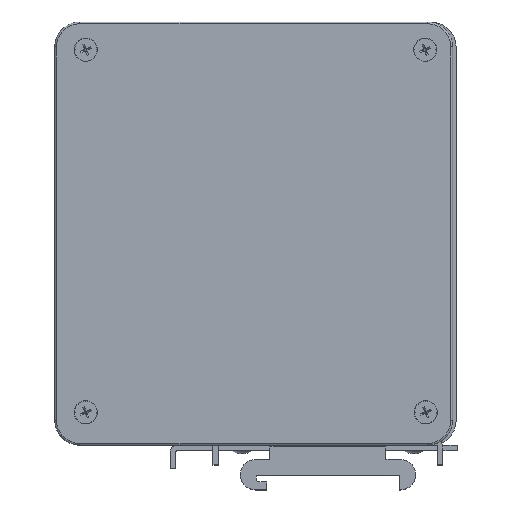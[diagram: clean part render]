
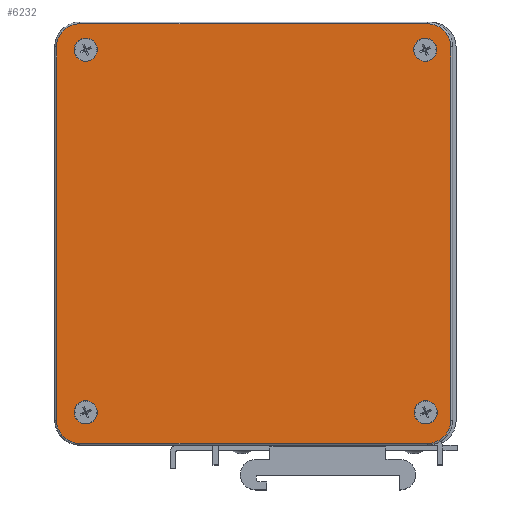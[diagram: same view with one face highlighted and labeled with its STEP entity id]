
A CAD part, top view. The second image highlights one B-rep face of the part: STEP entity #6232.
In plain terms, the highlighted planar face has unit normal (0, 0, 1) as drawn and (0, 0, -1) by its records, which use the part's own axes.
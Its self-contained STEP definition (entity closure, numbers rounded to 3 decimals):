
#158 = ORIENTED_EDGE ( 'NONE', *, *, #4892, .T. ) ;
#280 = ORIENTED_EDGE ( 'NONE', *, *, #20295, .T. ) ;
#301 = DIRECTION ( 'NONE',  ( 1., 0., 0. ) ) ;
#322 = DIRECTION ( 'NONE',  ( 1., 0., 0. ) ) ;
#325 = CARTESIAN_POINT ( 'NONE',  ( 6., 110.5, 0. ) ) ;
#437 = CARTESIAN_POINT ( 'NONE',  ( 104.95, 8.2, 0. ) ) ;
#534 = EDGE_CURVE ( 'NONE', #18954, #5129, #19991, .T. ) ;
#724 = VECTOR ( 'NONE', #19728, 1000. ) ;
#757 = DIRECTION ( 'NONE',  ( 1., 0., 0. ) ) ;
#771 = CARTESIAN_POINT ( 'NONE',  ( -0.5, 110.5, 0. ) ) ;
#1735 = CARTESIAN_POINT ( 'NONE',  ( 6.7, 109.7, 0. ) ) ;
#1881 = DIRECTION ( 'NONE',  ( 0., 0., 1. ) ) ;
#1998 = DIRECTION ( 'NONE',  ( 1., 0., 0. ) ) ;
#2068 = EDGE_LOOP ( 'NONE', ( #12373, #158 ) ) ;
#2090 = ORIENTED_EDGE ( 'NONE', *, *, #7898, .T. ) ;
#2442 = CARTESIAN_POINT ( 'NONE',  ( 3.25, 8.2, 0. ) ) ;
#2962 = CARTESIAN_POINT ( 'NONE',  ( 98.45, 109.7, 0. ) ) ;
#3172 = CARTESIAN_POINT ( 'NONE',  ( 109.9, 0., 0. ) ) ;
#3206 = AXIS2_PLACEMENT_3D ( 'NONE', #14639, #4891, #757 ) ;
#3465 = VECTOR ( 'NONE', #7294, 1000. ) ;
#4113 = DIRECTION ( 'NONE',  ( 0., 0., -1. ) ) ;
#4127 = CARTESIAN_POINT ( 'NONE',  ( 6.5, 8.2, 0. ) ) ;
#4585 = FACE_BOUND ( 'NONE', #8899, .T. ) ;
#4780 = ORIENTED_EDGE ( 'NONE', *, *, #13179, .T. ) ;
#4891 = DIRECTION ( 'NONE',  ( 0., 0., 1. ) ) ;
#4892 = EDGE_CURVE ( 'NONE', #17440, #11349, #9690, .T. ) ;
#4904 = EDGE_CURVE ( 'NONE', #15860, #11461, #8866, .T. ) ;
#5129 = VERTEX_POINT ( 'NONE', #15342 ) ;
#5247 = AXIS2_PLACEMENT_3D ( 'NONE', #10114, #8060, #20006 ) ;
#5410 = ORIENTED_EDGE ( 'NONE', *, *, #19795, .T. ) ;
#5560 = CARTESIAN_POINT ( 'NONE',  ( 101.7, 8.2, 0. ) ) ;
#5724 = DIRECTION ( 'NONE',  ( 0., 0., -1. ) ) ;
#5790 = CARTESIAN_POINT ( 'NONE',  ( 101.7, 109.7, 0. ) ) ;
#6232 = ADVANCED_FACE ( 'NONE', ( #8437, #11915, #19756, #6526, #4585 ), #17810, .F. ) ;
#6464 = CARTESIAN_POINT ( 'NONE',  ( 98.45, 8.2, 0. ) ) ;
#6502 = CARTESIAN_POINT ( 'NONE',  ( 103.4, -0.5, 0. ) ) ;
#6520 = LINE ( 'NONE', #21682, #10362 ) ;
#6526 = FACE_BOUND ( 'NONE', #11707, .T. ) ;
#6532 = CARTESIAN_POINT ( 'NONE',  ( 103.4, 6., 0. ) ) ;
#6539 = CARTESIAN_POINT ( 'NONE',  ( 3.45, 109.7, 0. ) ) ;
#6580 = ORIENTED_EDGE ( 'NONE', *, *, #7784, .T. ) ;
#7228 = CARTESIAN_POINT ( 'NONE',  ( 103.4, 117., 0. ) ) ;
#7294 = DIRECTION ( 'NONE',  ( -1., 0., 0. ) ) ;
#7384 = EDGE_CURVE ( 'NONE', #20338, #23155, #12626, .T. ) ;
#7529 = LINE ( 'NONE', #10894, #3465 ) ;
#7671 = EDGE_LOOP ( 'NONE', ( #25246, #280 ) ) ;
#7784 = EDGE_CURVE ( 'NONE', #9757, #15860, #13823, .T. ) ;
#7877 = ORIENTED_EDGE ( 'NONE', *, *, #10544, .T. ) ;
#7898 = EDGE_CURVE ( 'NONE', #10878, #11376, #20845, .T. ) ;
#7909 = DIRECTION ( 'NONE',  ( 0., 0., 1. ) ) ;
#7930 = DIRECTION ( 'NONE',  ( 0., 0., -1. ) ) ;
#8041 = AXIS2_PLACEMENT_3D ( 'NONE', #325, #7930, #11785 ) ;
#8060 = DIRECTION ( 'NONE',  ( 0., 0., 1. ) ) ;
#8113 = AXIS2_PLACEMENT_3D ( 'NONE', #6532, #18073, #18202 ) ;
#8131 = AXIS2_PLACEMENT_3D ( 'NONE', #18168, #7909, #301 ) ;
#8289 = AXIS2_PLACEMENT_3D ( 'NONE', #5560, #20754, #10990 ) ;
#8437 = FACE_OUTER_BOUND ( 'NONE', #19797, .T. ) ;
#8866 = CIRCLE ( 'NONE', #8041, 6.5 ) ;
#8899 = EDGE_LOOP ( 'NONE', ( #20011, #2090 ) ) ;
#8903 = AXIS2_PLACEMENT_3D ( 'NONE', #13885, #4113, #21722 ) ;
#8921 = CARTESIAN_POINT ( 'NONE',  ( 9.95, 109.7, 0. ) ) ;
#8934 = AXIS2_PLACEMENT_3D ( 'NONE', #1735, #19605, #1998 ) ;
#9278 = VERTEX_POINT ( 'NONE', #13340 ) ;
#9499 = DIRECTION ( 'NONE',  ( 0., 0., 1. ) ) ;
#9690 = CIRCLE ( 'NONE', #23648, 3.25 ) ;
#9757 = VERTEX_POINT ( 'NONE', #14736 ) ;
#10114 = CARTESIAN_POINT ( 'NONE',  ( 0., 0., 0. ) ) ;
#10334 = CARTESIAN_POINT ( 'NONE',  ( 6., -0.5, 0. ) ) ;
#10362 = VECTOR ( 'NONE', #322, 1000. ) ;
#10495 = EDGE_CURVE ( 'NONE', #21208, #12241, #14717, .T. ) ;
#10544 = EDGE_CURVE ( 'NONE', #9278, #22013, #17584, .T. ) ;
#10596 = CIRCLE ( 'NONE', #8934, 3.25 ) ;
#10660 = AXIS2_PLACEMENT_3D ( 'NONE', #22430, #5724, #13673 ) ;
#10671 = DIRECTION ( 'NONE',  ( 0., 0., 1. ) ) ;
#10878 = VERTEX_POINT ( 'NONE', #6539 ) ;
#10894 = CARTESIAN_POINT ( 'NONE',  ( 0., -0.5, 0. ) ) ;
#10990 = DIRECTION ( 'NONE',  ( 1., 0., 0. ) ) ;
#11094 = EDGE_CURVE ( 'NONE', #11376, #10878, #10596, .T. ) ;
#11153 = CARTESIAN_POINT ( 'NONE',  ( 101.7, 8.2, 0. ) ) ;
#11349 = VERTEX_POINT ( 'NONE', #437 ) ;
#11376 = VERTEX_POINT ( 'NONE', #8921 ) ;
#11461 = VERTEX_POINT ( 'NONE', #16887 ) ;
#11536 = EDGE_CURVE ( 'NONE', #15440, #9757, #22572, .T. ) ;
#11707 = EDGE_LOOP ( 'NONE', ( #7877, #4780 ) ) ;
#11785 = DIRECTION ( 'NONE',  ( 1., 0., 0. ) ) ;
#11915 = FACE_BOUND ( 'NONE', #7671, .T. ) ;
#11966 = DIRECTION ( 'NONE',  ( 0., 0., 1. ) ) ;
#12241 = VERTEX_POINT ( 'NONE', #2442 ) ;
#12373 = ORIENTED_EDGE ( 'NONE', *, *, #25338, .T. ) ;
#12392 = CARTESIAN_POINT ( 'NONE',  ( -0.5, 0., 0. ) ) ;
#12626 = CIRCLE ( 'NONE', #8113, 6.5 ) ;
#13179 = EDGE_CURVE ( 'NONE', #22013, #9278, #15242, .T. ) ;
#13340 = CARTESIAN_POINT ( 'NONE',  ( 104.95, 109.7, 0. ) ) ;
#13350 = AXIS2_PLACEMENT_3D ( 'NONE', #4127, #11966, #19801 ) ;
#13433 = EDGE_CURVE ( 'NONE', #5129, #20338, #22852, .T. ) ;
#13625 = VECTOR ( 'NONE', #24396, 1000. ) ;
#13673 = DIRECTION ( 'NONE',  ( 1., 0., 0. ) ) ;
#13683 = EDGE_CURVE ( 'NONE', #11461, #18954, #6520, .T. ) ;
#13823 = LINE ( 'NONE', #12392, #724 ) ;
#13885 = CARTESIAN_POINT ( 'NONE',  ( 103.4, 110.5, 0. ) ) ;
#14573 = CIRCLE ( 'NONE', #13350, 3.25 ) ;
#14639 = CARTESIAN_POINT ( 'NONE',  ( 6.5, 8.2, 0. ) ) ;
#14717 = CIRCLE ( 'NONE', #3206, 3.25 ) ;
#14736 = CARTESIAN_POINT ( 'NONE',  ( -0.5, 6., 0. ) ) ;
#15242 = CIRCLE ( 'NONE', #18109, 3.25 ) ;
#15342 = CARTESIAN_POINT ( 'NONE',  ( 109.9, 110.5, 0. ) ) ;
#15440 = VERTEX_POINT ( 'NONE', #10334 ) ;
#15821 = ORIENTED_EDGE ( 'NONE', *, *, #7384, .T. ) ;
#15860 = VERTEX_POINT ( 'NONE', #771 ) ;
#16887 = CARTESIAN_POINT ( 'NONE',  ( 6., 117., 0. ) ) ;
#17019 = ORIENTED_EDGE ( 'NONE', *, *, #4904, .T. ) ;
#17440 = VERTEX_POINT ( 'NONE', #6464 ) ;
#17584 = CIRCLE ( 'NONE', #18412, 3.25 ) ;
#17690 = ORIENTED_EDGE ( 'NONE', *, *, #534, .T. ) ;
#17810 = PLANE ( 'NONE',  #5247 ) ;
#17972 = CARTESIAN_POINT ( 'NONE',  ( 9.75, 8.2, 0. ) ) ;
#18073 = DIRECTION ( 'NONE',  ( 0., 0., -1. ) ) ;
#18109 = AXIS2_PLACEMENT_3D ( 'NONE', #5790, #9499, #21456 ) ;
#18168 = CARTESIAN_POINT ( 'NONE',  ( 6.7, 109.7, 0. ) ) ;
#18202 = DIRECTION ( 'NONE',  ( 1., 0., 0. ) ) ;
#18363 = DIRECTION ( 'NONE',  ( 1., 0., 0. ) ) ;
#18412 = AXIS2_PLACEMENT_3D ( 'NONE', #24165, #10671, #18363 ) ;
#18954 = VERTEX_POINT ( 'NONE', #7228 ) ;
#19360 = CIRCLE ( 'NONE', #8289, 3.25 ) ;
#19605 = DIRECTION ( 'NONE',  ( 0., 0., 1. ) ) ;
#19728 = DIRECTION ( 'NONE',  ( 0., 1., 0. ) ) ;
#19756 = FACE_BOUND ( 'NONE', #2068, .T. ) ;
#19795 = EDGE_CURVE ( 'NONE', #23155, #15440, #7529, .T. ) ;
#19797 = EDGE_LOOP ( 'NONE', ( #20470, #15821, #5410, #20378, #6580, #17019, #24197, #17690 ) ) ;
#19801 = DIRECTION ( 'NONE',  ( 1., 0., 0. ) ) ;
#19924 = CARTESIAN_POINT ( 'NONE',  ( 109.9, 6., 0. ) ) ;
#19991 = CIRCLE ( 'NONE', #8903, 6.5 ) ;
#20006 = DIRECTION ( 'NONE',  ( 1., 0., 0. ) ) ;
#20011 = ORIENTED_EDGE ( 'NONE', *, *, #11094, .T. ) ;
#20295 = EDGE_CURVE ( 'NONE', #12241, #21208, #14573, .T. ) ;
#20338 = VERTEX_POINT ( 'NONE', #19924 ) ;
#20378 = ORIENTED_EDGE ( 'NONE', *, *, #11536, .T. ) ;
#20470 = ORIENTED_EDGE ( 'NONE', *, *, #13433, .T. ) ;
#20754 = DIRECTION ( 'NONE',  ( 0., 0., 1. ) ) ;
#20845 = CIRCLE ( 'NONE', #8131, 3.25 ) ;
#20919 = DIRECTION ( 'NONE',  ( 1., 0., 0. ) ) ;
#21208 = VERTEX_POINT ( 'NONE', #17972 ) ;
#21456 = DIRECTION ( 'NONE',  ( 1., 0., 0. ) ) ;
#21682 = CARTESIAN_POINT ( 'NONE',  ( 0., 117., 0. ) ) ;
#21722 = DIRECTION ( 'NONE',  ( 1., 0., 0. ) ) ;
#22013 = VERTEX_POINT ( 'NONE', #2962 ) ;
#22430 = CARTESIAN_POINT ( 'NONE',  ( 6., 6., 0. ) ) ;
#22572 = CIRCLE ( 'NONE', #10660, 6.5 ) ;
#22852 = LINE ( 'NONE', #3172, #13625 ) ;
#23155 = VERTEX_POINT ( 'NONE', #6502 ) ;
#23648 = AXIS2_PLACEMENT_3D ( 'NONE', #11153, #1881, #20919 ) ;
#24165 = CARTESIAN_POINT ( 'NONE',  ( 101.7, 109.7, 0. ) ) ;
#24197 = ORIENTED_EDGE ( 'NONE', *, *, #13683, .T. ) ;
#24396 = DIRECTION ( 'NONE',  ( 0., -1., 0. ) ) ;
#25246 = ORIENTED_EDGE ( 'NONE', *, *, #10495, .T. ) ;
#25338 = EDGE_CURVE ( 'NONE', #11349, #17440, #19360, .T. ) ;
